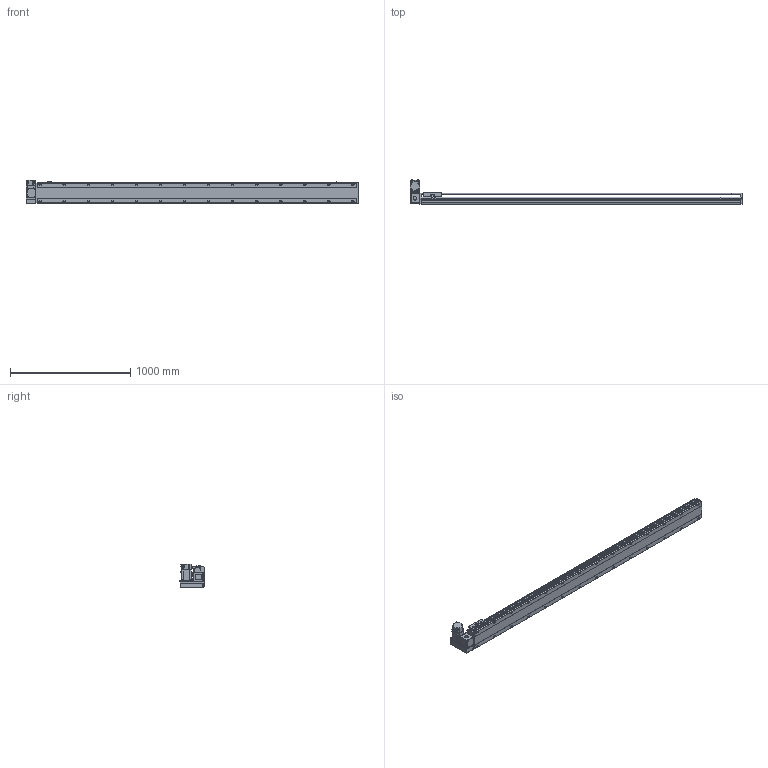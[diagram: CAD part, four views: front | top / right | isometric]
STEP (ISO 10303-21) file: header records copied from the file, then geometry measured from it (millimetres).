
FILE_DESCRIPTION(/* description */ ('STEP AP214'),/* implementation_level */ '2;1');
FILE_NAME(/* name */ 'PBS170-P40-S2400-LU-T75-C1-N(0)',/* time_stamp */ '2022-06-07T10:17:16+02:00',/* author */ ('License CC BY-ND 4.0'),/* organization */ ('CADENAS'),/* preprocessor_version */ 'ST-DEVELOPER v18.102',/* originating_system */ 'PARTsolutions',/* authorisation */ ' ');
FILE_SCHEMA (('AUTOMOTIVE_DESIGN {1 0 10303 214 3 1 1}'));
Length unit declared in the file: millimetre
Products named in the file (7): PBS170-P40-S2400-LU-T75-C1-N(0); PBS170_sensor; PBS170_plant; PBS170_sliser; T75-p1; PBS170T-LU_motors; PBS170-S2400()_body
Assembly tree (8 placements, depth 2):
  PBS170-P40-S2400-LU-T75-C1-N(0)
    PBS170_sensor  x3
    PBS170_plant
    PBS170_sliser
    T75-p1
    PBS170T-LU_motors
    PBS170-S2400()_body
Bounding box: 2763 x 206 x 197.3 mm (x, y, z)
Volume: 20968084.4 mm3; surface area: 2642827.1 mm2
Topology: 8 solids, 8 shells, 1178 faces, 3115 edges, 2030 vertices
Faces by surface type: plane 723, cylinder 387, cone 58, sphere 8, torus 2
Full cylindrical faces by diameter (mm): 3.242 x4, 4 x2, 4.4 x4, 4.5 x6, 4.917 x4, 6 x9, 6.647 x36, 7 x2, 7.5 x4, 8 x8, 8.5 x28, 10 x4, 10.5 x28, 11 x2, 30 x2, 40 x1, 70 x1
Entity records: 33866 total; most frequent: CARTESIAN_POINT 6385, DIRECTION 5720, ORIENTED_EDGE 5388, EDGE_CURVE 2694, AXIS2_PLACEMENT_3D 2017, VERTEX_POINT 1874, LINE 1686, VECTOR 1686
